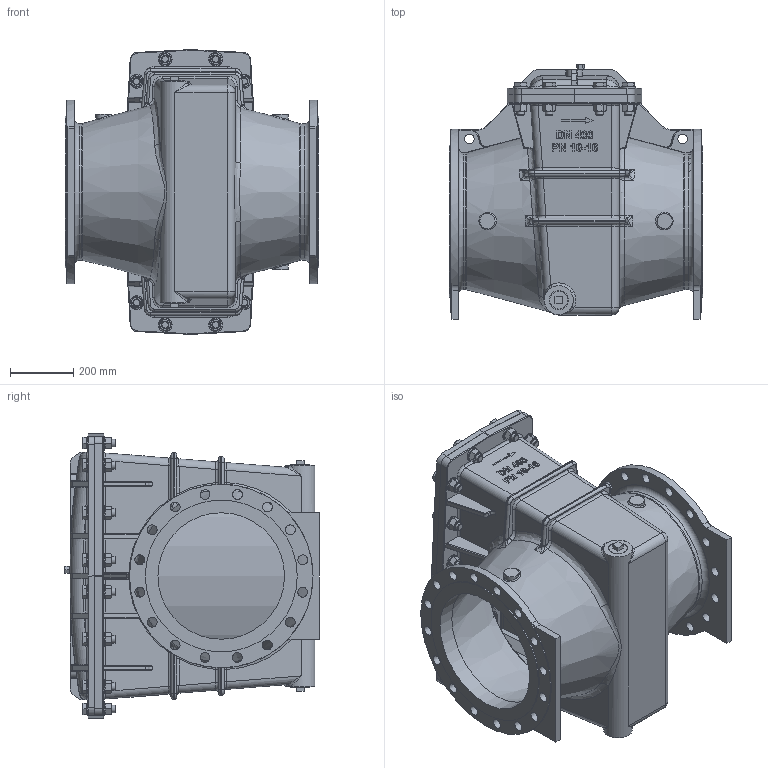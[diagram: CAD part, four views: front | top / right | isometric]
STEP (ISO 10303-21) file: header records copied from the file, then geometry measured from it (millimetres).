
FILE_DESCRIPTION(/* description */ (''),/* implementation_level */ '2;1');
FILE_NAME(/* name */ 'G:\Doc_Liberes\SymbolesCAD\Modeles_3D\FichierSTP\Aqua\Aqua90501\FAB400_16.stp',/* time_stamp */ '2017-11-27T08:59:14+01:00',/* author */ ('Cédric'),/* organization */ (''),/* preprocessor_version */ 'ST-DEVELOPER v16.13',/* originating_system */ 'Autodesk Inventor 2018',/* authorisation */ '');
FILE_SCHEMA (('AUTOMOTIVE_DESIGN { 1 0 10303 214 3 1 1 }'));
Length unit declared in the file: millimetre
Products named in the file (15): FAB40016; 58071-46; 58070-40; 58073; 58073_1; 58073-01; 58072-40; 57576-02; 57576-07; 57507; ISO 4144 Bouchon mâle T8 2; 300656-11; ISO 4017 - M24 x 90; ISO 7089 - 24 - 140 HV; ISO 4032 - M24
Assembly tree (76 placements, depth 3):
  FAB40016
    58071-46
    58070-40
    58073
      58073_1
      58073-01
    58072-40
    57576-02
      57576-07
      57507
    ISO 4144 Bouchon mâle T8 2  x2
    ISO 4017 - M24 x 90  x16
    ISO 4032 - M24  x16
    ISO 7089 - 24 - 140 HV  x32
    300656-11
Bounding box: 800 x 805 x 900 mm (x, y, z)
Volume: 61150216.3 mm3; surface area: 8431037 mm2
Topology: 74 solids, 74 shells, 3685 faces, 9126 edges, 5681 vertices
Faces by surface type: plane 1428, cylinder 1037, bspline 701, torus 299, cone 202, sphere 18
Full cylindrical faces by diameter (mm): 1.6 x1, 2.3 x1, 6.5 x1, 6.92 x1, 8 x1, 10 x4, 13.84 x2, 14 x1, 18.63 x1, 20.752 x16, 20.955 x1, 24 x16, 25 x32, 26 x32, 30 x2, 31 x32, 33.61 x16, 44 x32, 48 x2, 52.9 x2, 56.66 x2, 400 x2, 480 x2, 580 x2
Entity records: 125954 total; most frequent: CARTESIAN_POINT 54040, ORIENTED_EDGE 15338, DIRECTION 13727, EDGE_CURVE 7669, AXIS2_PLACEMENT_3D 5116, VERTEX_POINT 4835, EDGE_LOOP 3562, LINE 3495
